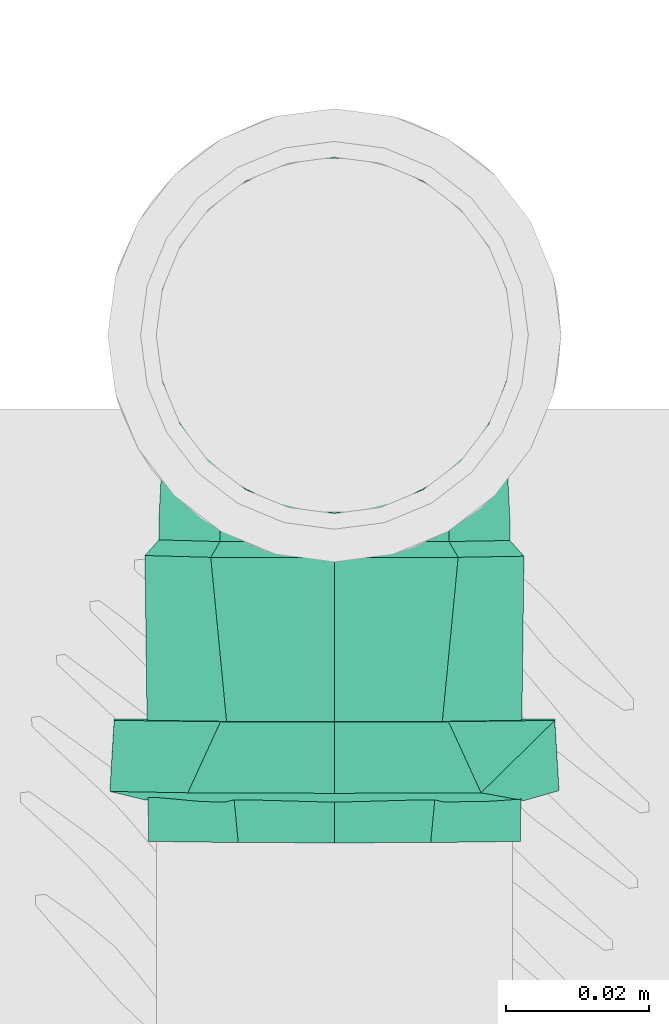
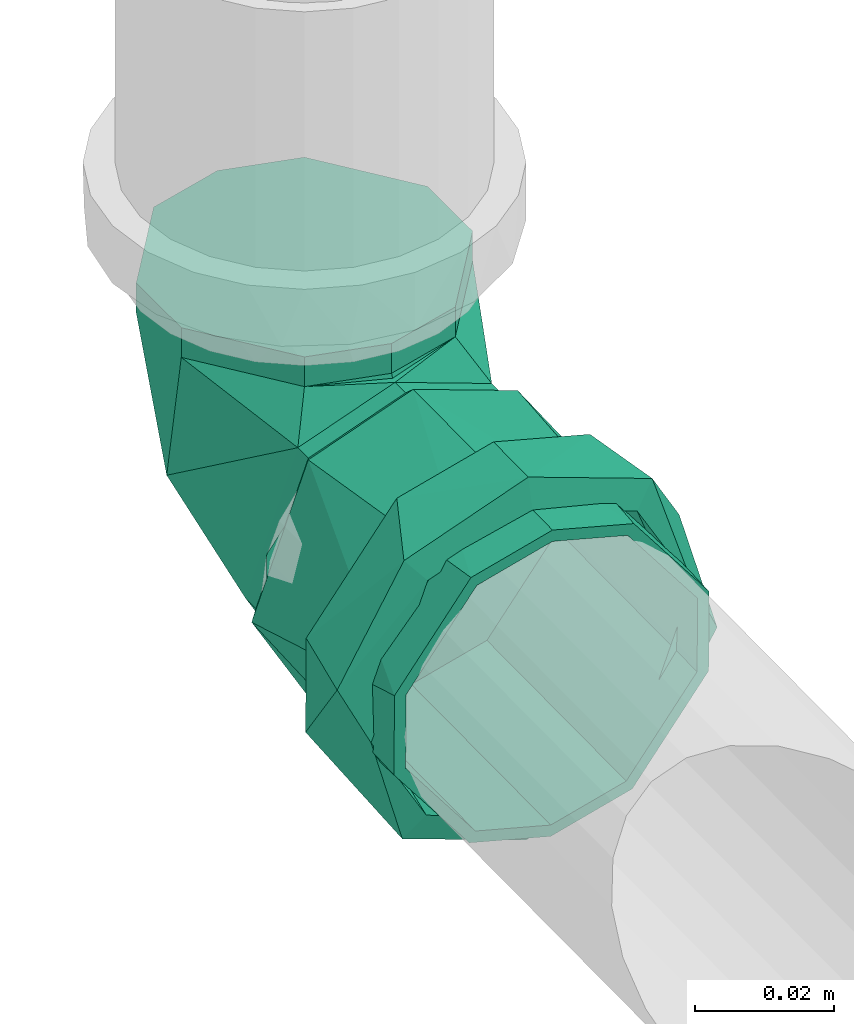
# One storey, part 42 of 589: 1 flow fitting.
"""IFC2X3 building model written with IfcOpenShell, lengths in millimetres."""

from ifc_helpers import new_model, entity, si_unit, converted_unit, derived_unit, direction, frame, origin, place, context, subcontext, project, spatial, faceted_brep, source, transform, mapped, material, type_object, type_shapes, element, save


model = new_model("IFC2X3")

# Units and contexts
model_context = context("Model", 3, precision=0.01, world=origin(), true_north=direction((6.123031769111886e-17, 1.0)))
body_context = subcontext(model_context, "Body", "Model", "MODEL_VIEW")
ifc_project = project(units=[si_unit("LENGTHUNIT", "METRE", prefix="MILLI"), si_unit("AREAUNIT", "SQUARE_METRE"), si_unit("VOLUMEUNIT", "CUBIC_METRE"), converted_unit("PLANEANGLEUNIT", "DEGREE", entity("IfcRatioMeasure", 0.017453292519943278), si_unit("PLANEANGLEUNIT", "RADIAN"), dimensions=[0, 0, 0, 0, 0, 0, 0]), si_unit("MASSUNIT", "GRAM", prefix="KILO"), derived_unit("MASSDENSITYUNIT", [(si_unit("MASSUNIT", "GRAM", prefix="KILO"), 1), (si_unit("LENGTHUNIT", "METRE"), -3)]), derived_unit("IONCONCENTRATIONUNIT", [(si_unit("MASSUNIT", "GRAM", prefix="KILO"), 1), (si_unit("LENGTHUNIT", "METRE"), -3)]), derived_unit("MOMENTOFINERTIAUNIT", [(si_unit("LENGTHUNIT", "METRE"), 4)]), si_unit("TIMEUNIT", "SECOND"), si_unit("FREQUENCYUNIT", "HERTZ"), si_unit("THERMODYNAMICTEMPERATUREUNIT", "DEGREE_CELSIUS"), derived_unit("THERMALTRANSMITTANCEUNIT", [(si_unit("MASSUNIT", "GRAM", prefix="KILO"), 1), (si_unit("THERMODYNAMICTEMPERATUREUNIT", "KELVIN"), -1), (si_unit("TIMEUNIT", "SECOND"), -3)]), derived_unit("THERMALCONDUCTANCEUNIT", [(si_unit("MASSUNIT", "GRAM", prefix="KILO"), 1), (si_unit("THERMODYNAMICTEMPERATUREUNIT", "KELVIN"), -1), (si_unit("TIMEUNIT", "SECOND"), -3), (si_unit("LENGTHUNIT", "METRE"), 1)]), derived_unit("VOLUMETRICFLOWRATEUNIT", [(si_unit("LENGTHUNIT", "METRE"), 3), (si_unit("TIMEUNIT", "SECOND"), -1)]), derived_unit("MASSFLOWRATEUNIT", [(si_unit("MASSUNIT", "GRAM", prefix="KILO"), 1), (si_unit("TIMEUNIT", "SECOND"), -1)]), derived_unit("ROTATIONALFREQUENCYUNIT", [(si_unit("TIMEUNIT", "SECOND"), -1)]), si_unit("ELECTRICCURRENTUNIT", "AMPERE"), si_unit("ELECTRICVOLTAGEUNIT", "VOLT"), si_unit("POWERUNIT", "WATT"), si_unit("FORCEUNIT", "NEWTON", prefix="KILO"), si_unit("ILLUMINANCEUNIT", "LUX"), si_unit("LUMINOUSFLUXUNIT", "LUMEN"), si_unit("LUMINOUSINTENSITYUNIT", "CANDELA"), derived_unit("USERDEFINED", [(si_unit("MASSUNIT", "GRAM", prefix="KILO"), -1), (si_unit("LENGTHUNIT", "METRE"), -2), (si_unit("TIMEUNIT", "SECOND"), 3), (si_unit("LUMINOUSFLUXUNIT", "LUMEN"), 1)]), derived_unit("USERDEFINED", [(si_unit("MASSUNIT", "GRAM", prefix="KILO"), 1), (si_unit("TIMEUNIT", "SECOND"), -3), (si_unit("LENGTHUNIT", "METRE"), 3), (si_unit("ELECTRICCURRENTUNIT", "AMPERE"), -2)]), derived_unit("SOUNDPOWERUNIT", [(si_unit("MASSUNIT", "GRAM", prefix="KILO"), 1), (si_unit("TIMEUNIT", "SECOND"), -3), (si_unit("LENGTHUNIT", "METRE"), 2)]), derived_unit("SOUNDPRESSUREUNIT", [(si_unit("MASSUNIT", "GRAM", prefix="KILO"), 1), (si_unit("LENGTHUNIT", "METRE"), -1), (si_unit("TIMEUNIT", "SECOND"), -2)]), derived_unit("LINEARVELOCITYUNIT", [(si_unit("LENGTHUNIT", "METRE"), 1), (si_unit("TIMEUNIT", "SECOND"), -1)]), si_unit("PRESSUREUNIT", "PASCAL"), derived_unit("USERDEFINED", [(si_unit("MASSUNIT", "GRAM", prefix="KILO"), 1), (si_unit("LENGTHUNIT", "METRE"), -2), (si_unit("TIMEUNIT", "SECOND"), -2)]), derived_unit("LINEARFORCEUNIT", [(si_unit("MASSUNIT", "GRAM", prefix="KILO"), 1), (si_unit("TIMEUNIT", "SECOND"), -2)]), derived_unit("PLANARFORCEUNIT", [(si_unit("MASSUNIT", "GRAM", prefix="KILO"), 1), (si_unit("LENGTHUNIT", "METRE"), -1), (si_unit("TIMEUNIT", "SECOND"), -2)]), derived_unit("SPECIFICHEATCAPACITYUNIT", [(si_unit("THERMODYNAMICTEMPERATUREUNIT", "KELVIN"), -1), (si_unit("LENGTHUNIT", "METRE"), 2), (si_unit("TIMEUNIT", "SECOND"), -2)]), derived_unit("HEATINGVALUEUNIT", [(si_unit("LENGTHUNIT", "METRE"), 2), (si_unit("TIMEUNIT", "SECOND"), -2)]), derived_unit("VAPORPERMEABILITYUNIT", [(si_unit("LENGTHUNIT", "METRE"), -1), (si_unit("TIMEUNIT", "SECOND"), 1)]), derived_unit("DYNAMICVISCOSITYUNIT", [(si_unit("MASSUNIT", "GRAM", prefix="KILO"), 1), (si_unit("TIMEUNIT", "SECOND"), -1), (si_unit("LENGTHUNIT", "METRE"), -1)]), derived_unit("THERMALEXPANSIONCOEFFICIENTUNIT", [(si_unit("THERMODYNAMICTEMPERATUREUNIT", "KELVIN"), -1)]), derived_unit("MODULUSOFELASTICITYUNIT", [(si_unit("MASSUNIT", "GRAM", prefix="KILO"), 1), (si_unit("LENGTHUNIT", "METRE"), -1), (si_unit("TIMEUNIT", "SECOND"), -2)]), derived_unit("ISOTHERMALMOISTURECAPACITYUNIT", [(si_unit("LENGTHUNIT", "METRE"), 3), (si_unit("MASSUNIT", "GRAM", prefix="KILO"), -1)]), derived_unit("MOISTUREDIFFUSIVITYUNIT", [(si_unit("TIMEUNIT", "SECOND"), -1), (si_unit("LENGTHUNIT", "METRE"), 2)])], contexts=[model_context])

# Site, building, storey
site_placement = place(None, origin())
site = spatial("IfcSite", under=ifc_project, at=site_placement, Name="Default", CompositionType="ELEMENT")
building_placement = place(site_placement, origin())
building = spatial("IfcBuilding", under=site, at=building_placement, CompositionType="ELEMENT")
storey_placement = place(building_placement, frame((0.0, 0.0, 100.0)))
storey = spatial("IfcBuildingStorey", under=building, at=storey_placement, Name="TÉRREO", CompositionType="ELEMENT", Elevation=100.0)

# Flow fitting
ifc_material = material(Name="PVC Série Normal")
pipe_fitting_type = type_object("IfcPipeFittingType", Name="PVC Esgoto_Joelho 45_90_Rodrigo MEP:a. Série Normal", PredefinedType="NOTDEFINED", material=ifc_material)
shared_shape = source(origin(), body_context, "Body", "Brep", [
    faceted_brep([(25.256150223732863, -25.490025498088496, 0.0), (21.906952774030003, -25.52351747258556, -12.500000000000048), (6.727552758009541, -25.675311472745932, -24.14814565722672), (-6.21275249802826, -25.804714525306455, -24.1481456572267), (-21.392152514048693, -25.956508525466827, -12.499999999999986), (-24.741349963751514, -25.990000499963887, 0.0), (-21.392152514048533, -25.95650852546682, 12.500000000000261), (-6.212752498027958, -25.804714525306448, 24.14814565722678), (6.7275527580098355, -25.675311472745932, 24.148145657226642), (21.906952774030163, -25.52351747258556, 12.499999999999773), (-6.160755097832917, -31.00445454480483, 24.14814565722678), (-21.340155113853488, -31.1562485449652, 12.500000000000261), (-24.689352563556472, -31.18974051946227, 0.0), (-21.34015511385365, -31.156248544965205, -12.499999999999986), (-6.160755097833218, -31.004454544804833, -24.1481456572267), (6.779550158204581, -30.87505149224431, -24.14814565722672), (21.958950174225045, -30.72325749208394, -12.500000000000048), (25.308147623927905, -30.689765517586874, 0.0), (21.958950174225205, -30.72325749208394, 12.499999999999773), (6.779550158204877, -30.87505149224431, 24.148145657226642)], [[[0, 1, 2, 3, 4, 5, 6, 7, 8, 9]], [[10, 11, 12, 13, 14, 15, 16, 17, 18, 19]], [[18, 17, 0, 9]], [[19, 18, 9, 8]], [[8, 7, 10, 19]], [[11, 10, 7, 6]], [[12, 11, 6, 5]], [[13, 12, 5, 4]], [[14, 13, 4, 3]], [[3, 2, 15, 14]], [[16, 15, 2, 1]], [[17, 16, 1, 0]]]),
    faceted_brep([(-70.94129996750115, -6.4704761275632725, -24.148145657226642), (-70.94129996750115, 6.47047612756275, -24.14814565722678), (-70.94129996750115, 6.988114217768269, -26.07999730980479), (-70.94129996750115, -6.988114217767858, -26.0799973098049), (-70.94129996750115, -21.6506350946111, -12.499999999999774), (-70.94129996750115, 23.382685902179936, -13.499999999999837), (-70.94129996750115, 21.650635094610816, -12.500000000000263), (-70.94129996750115, 25.0, 0.0), (-70.94129996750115, 27.0, 0.0), (-70.94129996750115, 21.650635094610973, 12.499999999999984), (-70.94129996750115, 23.382685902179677, 13.500000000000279), (-70.94129996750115, 6.470476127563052, 24.1481456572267), (-70.94129996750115, 6.98811421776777, 26.079997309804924), (-70.94129996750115, -6.470476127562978, 24.14814565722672), (-70.94129996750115, -6.988114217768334, 26.07999730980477), (-70.94129996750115, -21.650635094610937, 12.500000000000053), (-70.94129996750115, -23.38268590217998, 13.499999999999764), (-70.94129996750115, -27.0, 0.0), (-70.94129996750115, -25.0, 0.0), (-70.94129996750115, -23.382685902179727, -13.500000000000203), (-30.94129996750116, -25.0, 0.0), (-30.94129996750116, -21.650635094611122, -12.499999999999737), (-30.94129996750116, -6.4704761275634, -24.148145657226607), (-30.94129996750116, 6.470476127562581, -24.148145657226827), (-30.94129996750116, 21.650635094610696, -12.500000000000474), (-30.94129996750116, 25.0, 0.0), (-30.94129996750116, 21.65063509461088, 12.500000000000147), (-30.94129996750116, 6.470476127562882, 24.14814565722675), (-30.94129996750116, -6.470476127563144, 24.148145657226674), (-30.94129996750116, -21.650635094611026, 12.499999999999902), (-30.94129996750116, -27.0, 0.0), (-30.941299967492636, -20.682232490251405, 17.356418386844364), (-30.941299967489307, -7.995013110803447, 21.972787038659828), (-30.941299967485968, 4.692206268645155, 26.589155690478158), (-30.94129996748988, 20.686585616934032, 17.35122979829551), (-30.94129996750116, 27.0, 0.0), (-30.94129996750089, 20.686585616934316, -17.35122979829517), (-30.941299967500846, 8.000524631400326, -21.970780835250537), (-30.941299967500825, -4.6855363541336, -26.59033187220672), (-30.94129996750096, -20.682232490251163, -17.356418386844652), (-28.741299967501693, -4.344635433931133, -24.619588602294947), (-28.741299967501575, -19.15424594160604, -16.06595351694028), (-28.741299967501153, -25.0, 0.0), (-28.741299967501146, 25.0, 0.0), (-28.74129996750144, 19.15021526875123, -16.07075776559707), (-28.74129996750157, 7.402789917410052, -20.345173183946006), (-28.741299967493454, 19.150215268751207, 16.070757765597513), (-28.741299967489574, -7.407893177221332, 20.34331558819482), (-28.741299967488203, 4.338459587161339, 24.620677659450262), (-28.741299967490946, -19.154245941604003, 16.065953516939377), (-25.741299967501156, -25.0, 0.0), (-25.741299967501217, -19.151286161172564, 16.069481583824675), (-25.7412999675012, -7.405117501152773, 20.34485121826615), (-25.741299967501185, 4.3410511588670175, 24.620220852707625), (-25.741299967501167, 19.15106105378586, 16.069749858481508), (-25.741299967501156, 25.0, 0.0), (-25.741299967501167, 19.15106105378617, -16.069749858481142), (-25.741299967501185, 7.4048325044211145, -20.344954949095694), (-25.741299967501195, -4.341396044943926, -24.620160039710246), (-25.741299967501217, -19.15128616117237, -16.069481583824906), (21.90695277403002, -25.523517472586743, -12.500000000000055), (25.256150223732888, -25.490025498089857, 0.0), (21.906952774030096, -25.52351747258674, 12.499999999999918), (6.7275527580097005, -25.67531147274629, 24.148145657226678), (-6.2127524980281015, -25.80471452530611, 24.14814565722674), (-21.3921525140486, -25.956508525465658, 12.500000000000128), (-24.74134996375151, -25.990000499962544, 0.0), (-21.39215251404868, -25.95650852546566, -12.499999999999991), (-6.212752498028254, -25.80471452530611, -24.1481456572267), (6.727552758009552, -25.67531147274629, -24.14814565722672), (-0.875171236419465, -1.4332887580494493, 23.341145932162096), (-3.2027279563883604, 15.730161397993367, 0.0), (16.135012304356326, -8.632944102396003, 15.848254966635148), (10.140389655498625, 10.242300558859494, 0.0), (-25.03773742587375, -25.289366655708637, 0.0), (15.761400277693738, -3.0452732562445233, 0.0), (16.13501175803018, -8.632944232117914, -15.848255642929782), (-0.8358007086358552, -1.5246709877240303, -23.354961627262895)], [[[0, 1, 2]], [[2, 3, 0]], [[4, 0, 3]], [[5, 2, 1]], [[1, 6, 5]], [[6, 7, 5]], [[8, 5, 7]], [[8, 7, 9]], [[10, 8, 9]], [[9, 11, 10]], [[11, 12, 10]], [[13, 12, 11]], [[12, 13, 14]], [[13, 15, 14]], [[16, 14, 15]], [[16, 15, 17]], [[17, 15, 18]], [[18, 4, 19]], [[17, 18, 19]], [[3, 19, 4]], [[4, 18, 20, 21]], [[0, 4, 21, 22]], [[22, 23, 1, 0]], [[6, 1, 23, 24]], [[7, 6, 24, 25]], [[9, 7, 25, 26]], [[11, 9, 26, 27]], [[27, 28, 13, 11]], [[15, 13, 28, 29]], [[18, 15, 29, 20]], [[30, 16, 17]], [[30, 31, 16]], [[14, 16, 31]], [[14, 31, 32, 33]], [[10, 12, 34]], [[8, 10, 35]], [[33, 34, 12]], [[35, 10, 34]], [[14, 33, 12]], [[35, 5, 8]], [[35, 36, 5]], [[2, 5, 36]], [[2, 36, 37, 38]], [[19, 3, 39]], [[17, 19, 30]], [[38, 39, 3]], [[30, 19, 39]], [[2, 38, 3]], [[28, 27, 26, 25, 24, 23, 22, 21, 20, 29]], [[39, 40, 41]], [[30, 41, 42]], [[39, 41, 30]], [[39, 38, 40]], [[36, 43, 44]], [[37, 36, 44]], [[40, 38, 45]], [[43, 36, 35]], [[37, 45, 38]], [[37, 44, 45]], [[34, 46, 43]], [[43, 35, 34]], [[46, 34, 33]], [[47, 32, 31]], [[33, 48, 46]], [[30, 42, 49]], [[49, 47, 31]], [[30, 49, 31]], [[33, 32, 48]], [[47, 48, 32]], [[50, 49, 42]], [[50, 51, 49]], [[48, 52, 53]], [[47, 51, 52]], [[47, 52, 48]], [[47, 49, 51]], [[54, 43, 46]], [[53, 54, 46]], [[55, 43, 54]], [[48, 53, 46]], [[56, 44, 43]], [[55, 56, 43]], [[56, 57, 44]], [[57, 45, 44]], [[57, 58, 45]], [[40, 45, 58]], [[59, 41, 40]], [[59, 50, 41]], [[42, 41, 50]], [[58, 59, 40]], [[60, 61, 62, 63, 64, 65, 66, 67, 68, 69]], [[70, 53, 52, 51]], [[70, 71, 54]], [[71, 55, 54]], [[70, 72, 73]], [[74, 65, 50]], [[50, 65, 51]], [[53, 70, 54]], [[71, 70, 73]], [[62, 61, 75]], [[72, 70, 63]], [[62, 75, 72]], [[66, 65, 74]], [[63, 62, 72]], [[64, 51, 65]], [[51, 64, 70]], [[75, 73, 72]], [[70, 64, 63]], [[75, 76, 73]], [[56, 55, 71]], [[68, 59, 77]], [[58, 77, 59]], [[56, 71, 77]], [[77, 58, 57, 56]], [[76, 69, 77]], [[67, 50, 59]], [[67, 66, 74]], [[73, 77, 71]], [[59, 68, 67]], [[76, 75, 60]], [[75, 61, 60]], [[76, 77, 73]], [[60, 69, 76]], [[77, 69, 68]], [[74, 50, 67]]]),
    faceted_brep([(-53.94129996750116, 8.282209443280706, -30.909626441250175), (-53.94129996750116, 6.988114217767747, -26.079997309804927), (-53.94129996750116, -6.9881142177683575, -26.07999730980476), (-53.94129996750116, 27.712812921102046, -16.0), (-53.94129996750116, -8.28220944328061, -30.9096264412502), (-53.94129996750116, 23.38268590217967, -13.500000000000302), (-53.94129996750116, 27.0, 0.0), (-53.94129996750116, 32.0, 0.0), (-53.94129996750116, 23.382685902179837, 13.500000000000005), (-53.94129996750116, 27.712812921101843, 16.0), (-53.94129996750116, 6.988114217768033, 26.07999730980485), (-53.94129996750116, 8.28220944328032, 30.909626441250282), (-53.94129996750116, -6.988114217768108, 26.07999730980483), (-53.94129996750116, -8.282209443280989, 30.909626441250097), (-53.94129996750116, -23.382685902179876, 13.499999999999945), (-53.94129996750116, -27.712812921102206, 16.0), (-53.94129996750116, -32.0, 0.0), (-53.94129996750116, -27.0, 0.0), (-53.94129996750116, -27.712812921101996, -16.0), (-53.94129996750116, -23.38268590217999, -13.499999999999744), (-63.94129996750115, -23.38268590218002, -13.499999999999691), (-63.94129996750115, -25.19134295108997, -6.750000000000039), (-65.24129996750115, -27.0, 0.0), (-63.94129996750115, -27.0, 0.0), (-63.94129996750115, -6.988114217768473, -26.07999730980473), (-63.94129996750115, -11.086757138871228, -22.934997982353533), (-63.94129996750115, -15.185400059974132, -19.789998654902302), (-63.94129996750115, -19.284042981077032, -16.644999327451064), (-63.94129996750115, 6.988114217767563, -26.079997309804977), (-63.94129996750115, 0.0, -26.079997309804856), (-63.94129996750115, 23.382685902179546, -13.50000000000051), (-63.94129996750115, 19.284042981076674, -16.644999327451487), (-63.94129996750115, 15.185400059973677, -19.789998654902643), (-63.94129996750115, 11.086757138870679, -22.9349979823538), (-63.94129996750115, 27.0, 0.0), (-65.24129996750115, 27.0, 0.0), (-63.94129996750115, 25.191342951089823, -6.749999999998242), (-63.94129996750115, 23.382685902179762, 13.500000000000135), (-63.94129996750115, 25.191342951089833, 6.7500000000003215), (-63.94129996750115, 6.988114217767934, 26.079997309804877), (-63.94129996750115, 11.086757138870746, 22.934997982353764), (-63.94129996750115, 15.185400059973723, 19.7899986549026), (-63.94129996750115, 19.284042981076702, 16.64499932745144), (-63.94129996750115, -6.988114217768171, 26.079997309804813), (-63.94129996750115, 0.0, 26.079997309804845), (-63.94129996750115, -23.382685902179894, 13.499999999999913), (-63.94129996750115, -19.284042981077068, 16.644999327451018), (-63.94129996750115, -15.185400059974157, 19.789998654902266), (-63.94129996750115, -11.086757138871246, 22.93499798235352), (-63.94129996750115, -25.19134295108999, 6.749999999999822), (-63.94129996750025, -24.512275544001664, 20.570569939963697), (-63.94129996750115, -32.0, 0.0), (-63.94129996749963, -5.553228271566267, 31.51446740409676), (-63.94129996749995, 24.51743480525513, 20.56442050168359), (-63.94129996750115, 32.0, 0.0), (-63.9412999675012, 24.51743480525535, -20.564420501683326), (-63.94129996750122, 5.561133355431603, -31.513073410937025), (-63.94129996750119, -24.512275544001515, -20.570569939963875), (-65.24129996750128, 20.686585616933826, -17.351229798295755), (-65.24129996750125, -20.6822324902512, -17.356418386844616), (-65.24129996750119, -23.841116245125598, -8.678209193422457), (-65.24129996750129, 14.343555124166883, -19.661005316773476), (-65.24129996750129, 8.00052463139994, -21.970780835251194), (-65.2412999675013, 1.6574941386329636, -24.280556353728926), (-65.24129996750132, -4.685536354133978, -26.590331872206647), (-65.24129996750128, -12.683884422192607, -21.973375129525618), (-65.2412999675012, 23.84329280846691, -8.675614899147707), (-65.24129996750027, -20.68223249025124, 17.35641838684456), (-65.24129996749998, 20.68658561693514, 17.351229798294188), (-65.24129996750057, 23.843292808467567, 8.67561489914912), (-65.2412999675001, -14.338622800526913, 19.664602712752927), (-65.24129996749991, -7.995013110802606, 21.97278703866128), (-65.24129996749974, -1.6514034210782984, 24.28097136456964), (-65.24129996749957, 4.692206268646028, 26.58915569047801), (-65.24129996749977, 12.689395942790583, 21.9701927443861), (-65.24129996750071, -23.84111624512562, 8.678209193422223)], [[[0, 1, 2]], [[1, 0, 3]], [[2, 4, 0]], [[3, 5, 1]], [[3, 6, 5]], [[6, 3, 7]], [[8, 6, 7]], [[8, 7, 9]], [[9, 10, 8]], [[9, 11, 10]], [[10, 11, 12]], [[13, 12, 11]], [[13, 14, 12]], [[14, 13, 15]], [[16, 14, 15]], [[17, 14, 16]], [[18, 17, 16]], [[18, 19, 17]], [[19, 18, 4]], [[4, 2, 19]], [[20, 21, 22, 23, 17, 19]], [[24, 25, 26, 27, 20, 19, 2]], [[2, 1, 28, 29, 24]], [[30, 31, 32, 33, 28, 1, 5]], [[34, 35, 36, 30, 5, 6]], [[37, 38, 35, 34, 6, 8]], [[39, 40, 41, 42, 37, 8, 10]], [[10, 12, 43, 44, 39]], [[45, 46, 47, 48, 43, 12, 14]], [[23, 22, 49, 45, 14, 17]], [[15, 50, 51]], [[16, 15, 51]], [[13, 50, 15]], [[13, 52, 50]], [[53, 52, 11]], [[54, 53, 9]], [[11, 9, 53]], [[7, 54, 9]], [[13, 11, 52]], [[3, 55, 54]], [[7, 3, 54]], [[0, 55, 3]], [[0, 56, 55]], [[57, 56, 4]], [[51, 57, 18]], [[4, 18, 57]], [[16, 51, 18]], [[0, 4, 56]], [[58, 32, 31, 30]], [[59, 60, 20]], [[33, 61, 62]], [[32, 61, 33]], [[29, 63, 64]], [[24, 64, 65]], [[26, 59, 20, 27]], [[28, 63, 29]], [[64, 24, 29]], [[62, 28, 33]], [[24, 65, 26, 25]], [[22, 21, 60]], [[35, 66, 36]], [[32, 58, 61]], [[62, 63, 28]], [[58, 30, 66]], [[59, 26, 65]], [[66, 30, 36]], [[21, 20, 60]], [[67, 47, 46, 45]], [[68, 69, 37]], [[48, 70, 71]], [[47, 70, 48]], [[44, 72, 73]], [[39, 73, 74]], [[41, 68, 37, 42]], [[43, 72, 44]], [[73, 39, 44]], [[71, 43, 48]], [[39, 74, 41, 40]], [[35, 38, 69]], [[22, 75, 49]], [[47, 67, 70]], [[71, 72, 43]], [[67, 45, 75]], [[68, 41, 74]], [[75, 45, 49]], [[38, 37, 69]], [[54, 55, 58, 66, 35]], [[58, 55, 56]], [[56, 64, 63, 62, 61, 58]], [[57, 59, 65, 64]], [[51, 22, 60, 59, 57]], [[56, 57, 64]], [[51, 50, 67, 75, 22]], [[67, 50, 52]], [[52, 73, 72, 71, 70, 67]], [[53, 68, 74, 73]], [[54, 35, 69, 68, 53]], [[52, 53, 73]]]),
])
type_shapes(pipe_fitting_type, [shared_shape])
flow_fitting_placement = place(storey_placement, frame((1855.1564123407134, -9657.272915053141, 2980.6932858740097), z_axis=(-1.0, 0.0, 0.0), x_axis=(0.0, 0.9999500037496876, 0.009999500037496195)))
element("IfcFlowFitting", 1, at=flow_fitting_placement, inside=storey, type_object=pipe_fitting_type, material=ifc_material, Name="PVC Esgoto_Joelho 45_90_Rodrigo MEP:a. Série Normal", ObjectType="PVC Esgoto_Joelho 45_90_Rodrigo MEP:a. Série Normal", context=body_context, shape_type="MappedRepresentation", body=[
    mapped(shared_shape, transform((0.0, 0.0, 0.0), scale=1.0)),
])

save(model, "model.ifc")
